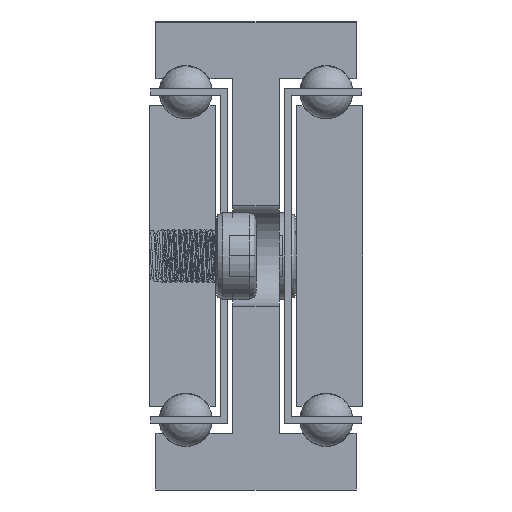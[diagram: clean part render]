
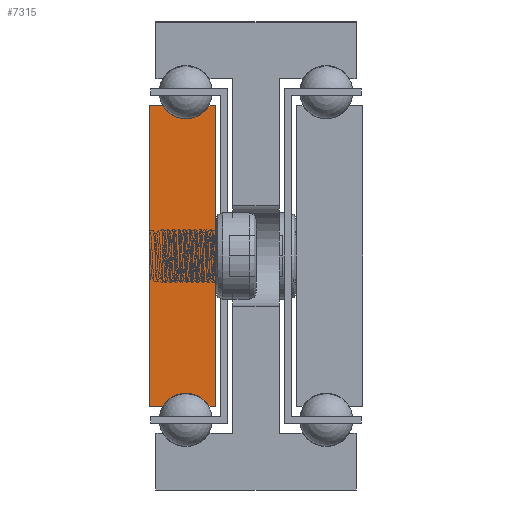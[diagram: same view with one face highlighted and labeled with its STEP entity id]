
A CAD part, front view. The second image highlights one B-rep face of the part: STEP entity #7315.
In plain terms, the highlighted planar face has unit normal (0, -1, 0).
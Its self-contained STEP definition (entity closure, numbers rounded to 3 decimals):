
#1205=CIRCLE('',#7883,4.);
#1207=CIRCLE('',#7889,4.);
#1849=FACE_OUTER_BOUND('',#2325,.T.);
#2325=EDGE_LOOP('',(#5798,#5799,#5800,#5801,#5802,#5803,#5804,#5805));
#3144=LINE('',#98987,#3356);
#3147=LINE('',#98993,#3359);
#3151=LINE('',#99005,#3363);
#3154=LINE('',#99011,#3366);
#3157=LINE('',#99017,#3369);
#3161=LINE('',#99027,#3373);
#3356=VECTOR('',#8842,1.);
#3359=VECTOR('',#8847,1.);
#3363=VECTOR('',#8859,1.);
#3366=VECTOR('',#8864,1.);
#3369=VECTOR('',#8869,1.);
#3373=VECTOR('',#8881,1.);
#3656=VERTEX_POINT('',#98984);
#3657=VERTEX_POINT('',#98986);
#3659=VERTEX_POINT('',#98992);
#3661=VERTEX_POINT('',#98998);
#3663=VERTEX_POINT('',#99004);
#3665=VERTEX_POINT('',#99010);
#3667=VERTEX_POINT('',#99016);
#3669=VERTEX_POINT('',#99022);
#4590=EDGE_CURVE('',#3657,#3656,#3144,.T.);
#4593=EDGE_CURVE('',#3659,#3657,#3147,.T.);
#4596=EDGE_CURVE('',#3661,#3659,#1205,.T.);
#4599=EDGE_CURVE('',#3663,#3661,#3151,.T.);
#4602=EDGE_CURVE('',#3665,#3663,#3154,.T.);
#4605=EDGE_CURVE('',#3667,#3665,#3157,.T.);
#4608=EDGE_CURVE('',#3669,#3667,#1207,.T.);
#4611=EDGE_CURVE('',#3656,#3669,#3161,.T.);
#5798=ORIENTED_EDGE('',*,*,#4611,.T.);
#5799=ORIENTED_EDGE('',*,*,#4608,.T.);
#5800=ORIENTED_EDGE('',*,*,#4605,.T.);
#5801=ORIENTED_EDGE('',*,*,#4602,.T.);
#5802=ORIENTED_EDGE('',*,*,#4599,.T.);
#5803=ORIENTED_EDGE('',*,*,#4596,.T.);
#5804=ORIENTED_EDGE('',*,*,#4593,.T.);
#5805=ORIENTED_EDGE('',*,*,#4590,.T.);
#7169=PLANE('',#7892);
#7315=ADVANCED_FACE('',(#1849),#7169,.T.);
#7883=AXIS2_PLACEMENT_3D('',#98999,#8853,#8854);
#7889=AXIS2_PLACEMENT_3D('',#99023,#8875,#8876);
#7892=AXIS2_PLACEMENT_3D('',#99029,#8884,#8885);
#8842=DIRECTION('',(0.,0.,-1.));
#8847=DIRECTION('',(-1.,0.,0.));
#8853=DIRECTION('center_axis',(0.,1.,0.));
#8854=DIRECTION('ref_axis',(-0.866,0.,-0.5));
#8859=DIRECTION('',(-1.,0.,0.));
#8864=DIRECTION('',(0.,0.,1.));
#8869=DIRECTION('',(1.,0.,0.));
#8875=DIRECTION('center_axis',(0.,1.,0.));
#8876=DIRECTION('ref_axis',(0.866,0.,0.5));
#8881=DIRECTION('',(1.,0.,0.));
#8884=DIRECTION('center_axis',(0.,-1.,0.));
#8885=DIRECTION('ref_axis',(1.,0.,0.));
#98984=CARTESIAN_POINT('',(-1102.748,-880.055,-57.5));
#98986=CARTESIAN_POINT('',(-1102.748,-880.055,-12.5));
#98987=CARTESIAN_POINT('',(-1102.748,-880.055,-57.5));
#98992=CARTESIAN_POINT('',(-1100.713,-880.055,-12.5));
#98993=CARTESIAN_POINT('',(-1102.748,-880.055,-12.5));
#98998=CARTESIAN_POINT('',(-1093.784,-880.055,-12.5));
#98999=CARTESIAN_POINT('Origin',(-1097.248,-880.055,-10.5));
#99004=CARTESIAN_POINT('',(-1092.748,-880.055,-12.5));
#99005=CARTESIAN_POINT('',(-1093.784,-880.055,-12.5));
#99010=CARTESIAN_POINT('',(-1092.748,-880.055,-57.5));
#99011=CARTESIAN_POINT('',(-1092.748,-880.055,-12.5));
#99016=CARTESIAN_POINT('',(-1093.784,-880.055,-57.5));
#99017=CARTESIAN_POINT('',(-1092.748,-880.055,-57.5));
#99022=CARTESIAN_POINT('',(-1100.713,-880.055,-57.5));
#99023=CARTESIAN_POINT('Origin',(-1097.248,-880.055,-59.5));
#99027=CARTESIAN_POINT('',(-1100.713,-880.055,-57.5));
#99029=CARTESIAN_POINT('Origin',(-1097.754,-880.055,-35.));
